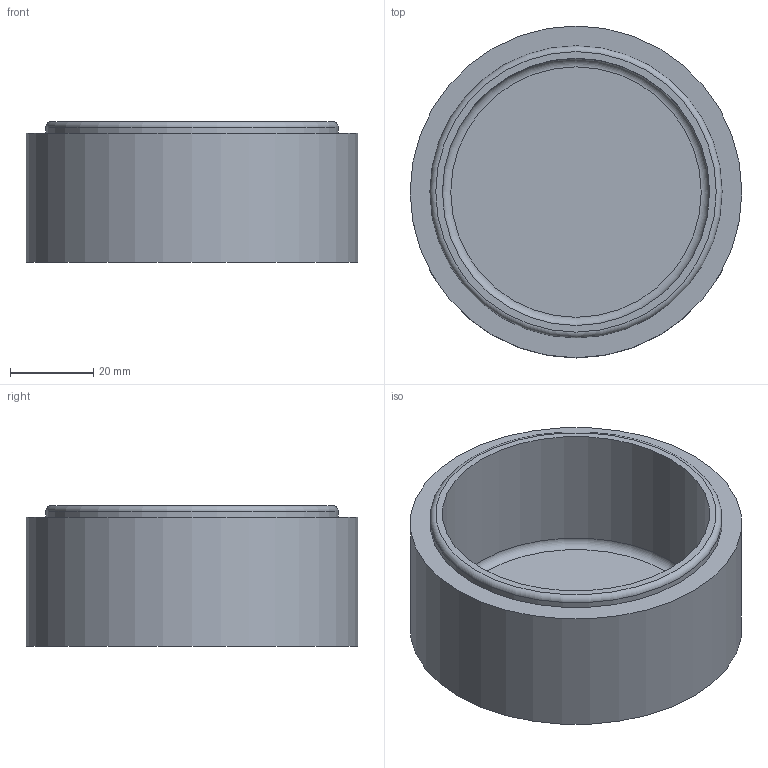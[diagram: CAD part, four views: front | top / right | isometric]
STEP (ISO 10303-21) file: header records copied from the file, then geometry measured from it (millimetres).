
FILE_DESCRIPTION(/* description */ ('STEP AP242','CAx-IF Rec.Pracs.---Representation and Presentation of Product Manufacturing Information (PMI)---4.0---2014-10-13','CAx-IF Rec.Pracs.---3D Tessellated Geometry---0.4---2014-09-14','2;1'),/* implementation_level */ '2;1');
FILE_NAME(/* name */ '6469220ccac4670533c1fa01',/* time_stamp */ '2023-05-20T19:39:57Z',/* author */ (''),/* organization */ (''),/* preprocessor_version */ 'ST-DEVELOPER v19.4',/* originating_system */ ' ',/* authorisation */ ' ');
FILE_SCHEMA (('AP242_MANAGED_MODEL_BASED_3D_ENGINEERING_MIM_LF { 1 0 10303 442 1 1 4 }'));
Length unit declared in the file: metre
Products named in the file (1): Stand NoLug
Bounding box: 79.6 x 79.6 x 33.8 mm (x, y, z)
Volume: 62533.5 mm3; surface area: 24417.6 mm2
Topology: 1 solids, 1 shells, 9 faces, 15 edges, 10 vertices
Faces by surface type: plane 4, cylinder 3, torus 2
Full cylindrical faces by diameter (mm): 64.1 x1, 70.1 x1, 79.6 x1
Entity records: 196 total; most frequent: DIRECTION 36, CARTESIAN_POINT 26, AXIS2_PLACEMENT_3D 18, ORIENTED_EDGE 16, EDGE_LOOP 16, FACE_BOUND 16, ADVANCED_FACE 9, EDGE_CURVE 8
